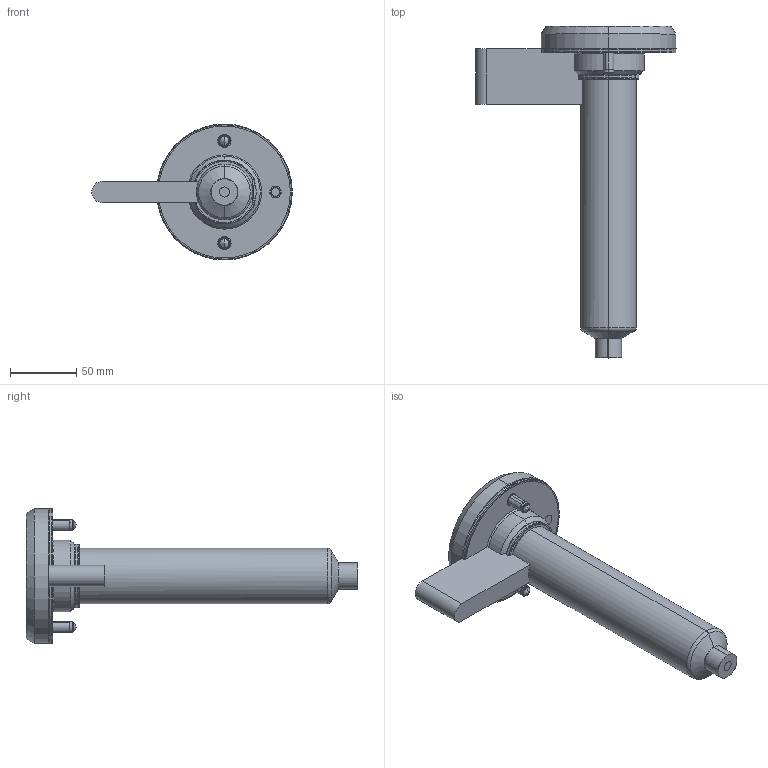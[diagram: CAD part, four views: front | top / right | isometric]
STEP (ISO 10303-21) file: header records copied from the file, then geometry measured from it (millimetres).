
FILE_DESCRIPTION (( 'STEP AP214' ), '1' );
FILE_NAME ('SOHSB16200-SOSRT1602.STEP', '2024-11-28T09:01:24', ( '' ), ( '' ), 'SwSTEP 2.0', 'SolidWorks 2022', '' );
FILE_SCHEMA (( 'AUTOMOTIVE_DESIGN' ));
Length unit declared in the file: millimetre
Products named in the file (9): EcoONE-HSB16-Open Gate Cut-out Details_Ext Sprue Gate or Full Body Gate; SOHSB16200-SOSRT1602; EcoONE-HSB16-Open Gate Extended Sprue Tip_SOSRT1602; EcoONE-HSB16-16003(A)_SOHSBNB16200; socket head cap screw_iso_ISO 4762 M8 x 25 - 25N; EcoONE-HSB16-16006_SONHC16; EcoONE-HSB16-16004_SONH28192; EcoONE-HSB16-00002(A)_SOHSBLR16; EcoONE-HSB16-16005_SOTC10350-J
Assembly tree (10 placements, depth 2):
  SOHSB16200-SOSRT1602
    EcoONE-HSB16-16003(A)_SOHSBNB16200
    EcoONE-HSB16-16004_SONH28192
    EcoONE-HSB16-16005_SOTC10350-J
    EcoONE-HSB16-16006_SONHC16  x2
    EcoONE-HSB16-00002(A)_SOHSBLR16
    socket head cap screw_iso_ISO 4762 M8 x 25 - 25N  x2
    EcoONE-HSB16-Open Gate Extended Sprue Tip_SOSRT1602
    EcoONE-HSB16-Open Gate Cut-out Details_Ext Sprue Gate or Full Body Gate
Bounding box: 151.2 x 250 x 102.4 mm (x, y, z)
Volume: 686491.2 mm3; surface area: 164005 mm2
Topology: 10 solids, 10 shells, 508 faces, 1275 edges, 800 vertices
Faces by surface type: cylinder 155, plane 132, bspline 106, cone 81, torus 26, sphere 8
Entity records: 29880 total; most frequent: CARTESIAN_POINT 18680, ORIENTED_EDGE 2326, DIRECTION 1915, EDGE_CURVE 1163, AXIS2_PLACEMENT_3D 771, VERTEX_POINT 737, EDGE_LOOP 504, ADVANCED_FACE 465
